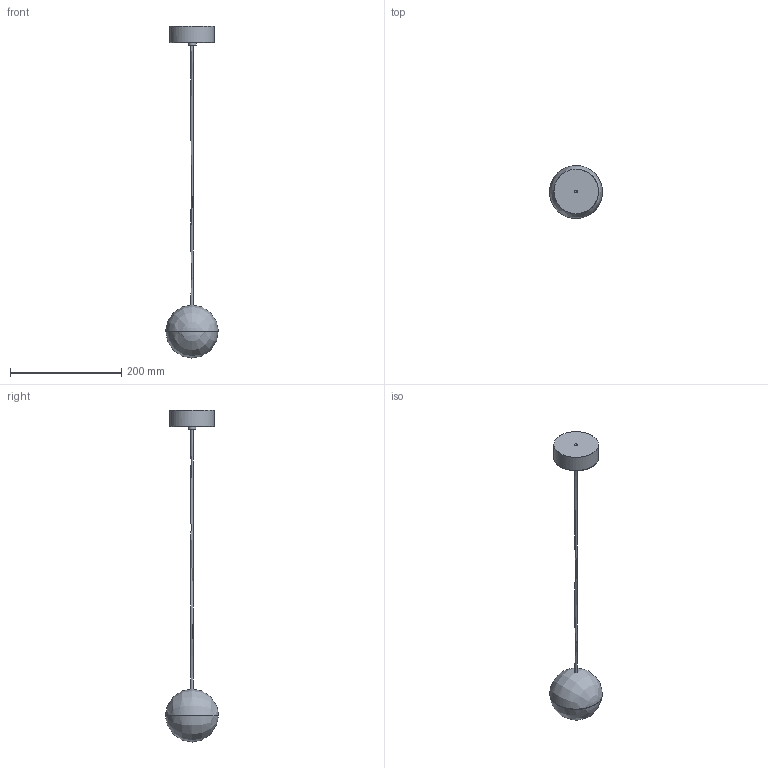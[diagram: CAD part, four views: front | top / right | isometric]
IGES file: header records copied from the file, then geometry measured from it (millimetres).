
Global section: file name: C:\Users\EQUIPO\Desktop\Nuevo ACB EUROLUCE 2019\Custo\CUSTO\CUSTO. (.iges).igs; native system: Rhinoceros ( Oct  8 2013 ); preprocessor: Trout Lake IGES 012 Oct  8 2013; date: 190326.162053; units: millimetre
Bounding box: 94.97 x 94.97 x 596.3 mm (x, y, z)
Surface area: 68640.5 mm2 (no closed solid volume)
Topology: 0 solids, 0 shells, 14 faces, 197 edges, 187 vertices
Faces by surface type: bspline 14
